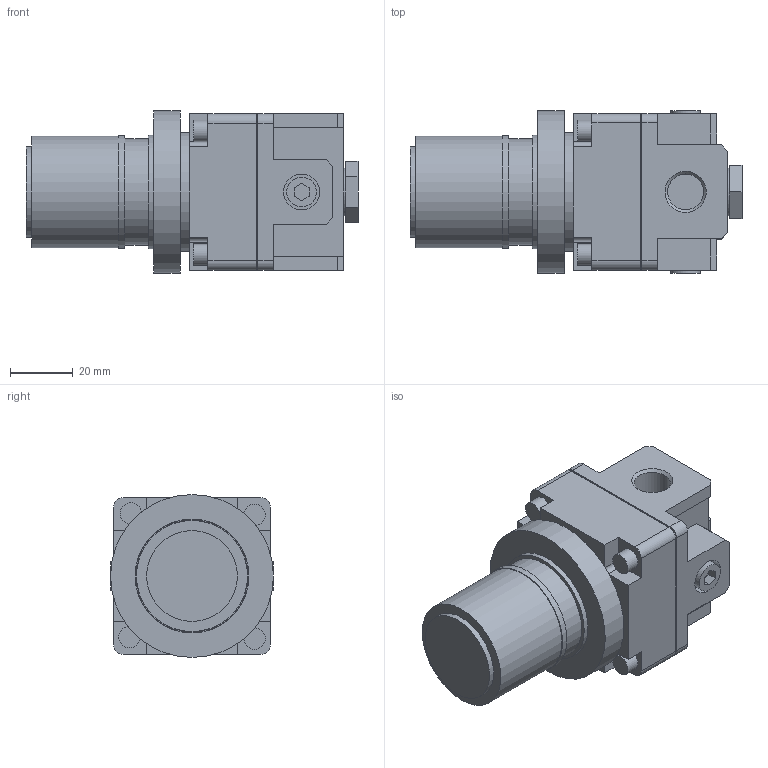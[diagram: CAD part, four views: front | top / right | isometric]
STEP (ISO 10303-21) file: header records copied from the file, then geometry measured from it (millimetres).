
FILE_DESCRIPTION((''),'2;1');
FILE_NAME('F:\AirCom-Produktdokumentation\Druckregler\RV\CAD\CAD AirCom\3D\B-RV2-02.stp','2008-10-15T07:54:09',('Frank Schroers'),(''),'Autodesk Inventor 2008','Autodesk Inventor 2008','');
FILE_SCHEMA(('AUTOMOTIVE_DESIGN { 1 0 10303 214 1 1 1 1 }'));
Length unit declared in the file: millimetre
Products named in the file (1): B-RV2-02
Bounding box: 106 x 52 x 52 mm (x, y, z)
Volume: 160385.2 mm3; surface area: 26382.2 mm2
Topology: 1 solids, 1 shells, 202 faces, 493 edges, 328 vertices
Faces by surface type: plane 152, cylinder 46, bspline 2, cone 2
Full cylindrical faces by diameter (mm): 1.315 x1, 3.06 x1, 6.8 x4, 9.49 x2, 11.45 x2, 11.49 x2, 15.6 x1, 29 x1, 34 x1, 35.5 x1, 36 x1, 36.38 x1, 38 x1, 52 x1
Entity records: 5831 total; most frequent: CARTESIAN_POINT 1034, DIRECTION 969, ORIENTED_EDGE 938, EDGE_CURVE 469, VECTOR 371, LINE 371, VERTEX_POINT 328, AXIS2_PLACEMENT_3D 299
